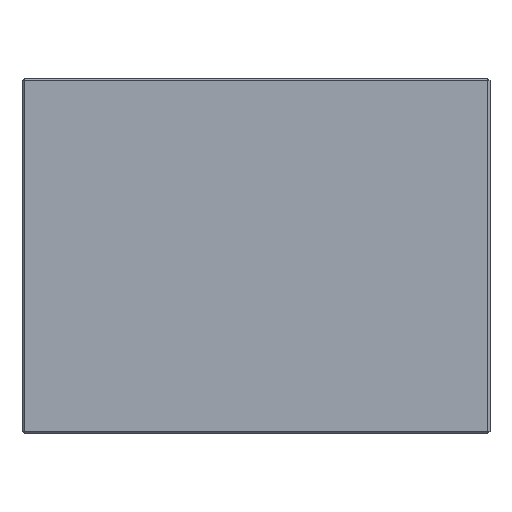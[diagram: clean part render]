
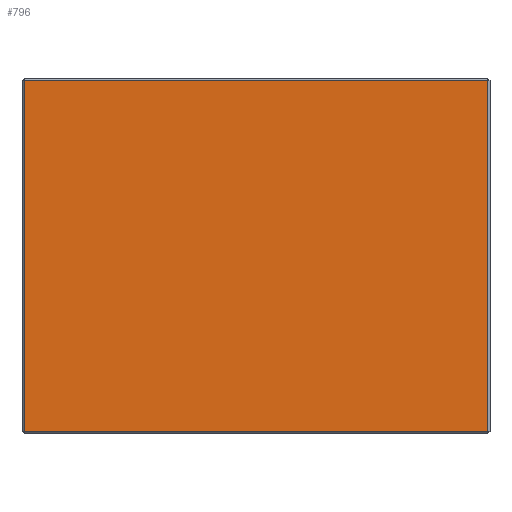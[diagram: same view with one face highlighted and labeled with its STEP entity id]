
A CAD part, left-side view. The second image highlights one B-rep face of the part: STEP entity #796.
In plain terms, the highlighted planar face has unit normal (-1, 0, 0).
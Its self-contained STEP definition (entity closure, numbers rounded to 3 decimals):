
#30 = CARTESIAN_POINT ( 'NONE',  ( -171.5, 0.25, -18. ) ) ;
#99 = VERTEX_POINT ( 'NONE', #2011 ) ;
#121 = ORIENTED_EDGE ( 'NONE', *, *, #503, .T. ) ;
#152 = EDGE_CURVE ( 'NONE', #1176, #940, #2153, .T. ) ;
#176 = EDGE_CURVE ( 'NONE', #99, #1925, #1938, .T. ) ;
#378 = CARTESIAN_POINT ( 'NONE',  ( -171.5, 0., -18. ) ) ;
#503 = EDGE_CURVE ( 'NONE', #1925, #1176, #533, .T. ) ;
#533 = LINE ( 'NONE', #1588, #663 ) ;
#609 = DIRECTION ( 'NONE',  ( 0., 1., 0. ) ) ;
#661 = ORIENTED_EDGE ( 'NONE', *, *, #176, .T. ) ;
#663 = VECTOR ( 'NONE', #2456, 1000. ) ;
#666 = LINE ( 'NONE', #2638, #1578 ) ;
#796 = ADVANCED_FACE ( 'NONE', ( #2785 ), #1044, .F. ) ;
#837 = DIRECTION ( 'NONE',  ( 0., 0., -1. ) ) ;
#940 = VERTEX_POINT ( 'NONE', #30 ) ;
#1044 = PLANE ( 'NONE',  #2557 ) ;
#1079 = EDGE_LOOP ( 'NONE', ( #661, #121, #1149, #2253 ) ) ;
#1149 = ORIENTED_EDGE ( 'NONE', *, *, #152, .T. ) ;
#1176 = VERTEX_POINT ( 'NONE', #1888 ) ;
#1416 = VECTOR ( 'NONE', #609, 1000. ) ;
#1515 = CARTESIAN_POINT ( 'NONE',  ( -171.5, 0., 18.25 ) ) ;
#1578 = VECTOR ( 'NONE', #2385, 1000. ) ;
#1588 = CARTESIAN_POINT ( 'NONE',  ( -171.5, 47.75, 18.25 ) ) ;
#1888 = CARTESIAN_POINT ( 'NONE',  ( -171.5, 47.75, -18. ) ) ;
#1925 = VERTEX_POINT ( 'NONE', #1983 ) ;
#1938 = LINE ( 'NONE', #2562, #1416 ) ;
#1939 = EDGE_CURVE ( 'NONE', #940, #99, #666, .T. ) ;
#1983 = CARTESIAN_POINT ( 'NONE',  ( -171.5, 47.75, 18. ) ) ;
#2011 = CARTESIAN_POINT ( 'NONE',  ( -171.5, 0.25, 18. ) ) ;
#2140 = DIRECTION ( 'NONE',  ( 0., -1., 0. ) ) ;
#2153 = LINE ( 'NONE', #378, #2359 ) ;
#2253 = ORIENTED_EDGE ( 'NONE', *, *, #1939, .T. ) ;
#2359 = VECTOR ( 'NONE', #2140, 1000. ) ;
#2385 = DIRECTION ( 'NONE',  ( 0., 0., 1. ) ) ;
#2396 = DIRECTION ( 'NONE',  ( 1., 0., 0. ) ) ;
#2456 = DIRECTION ( 'NONE',  ( 0., 0., -1. ) ) ;
#2557 = AXIS2_PLACEMENT_3D ( 'NONE', #1515, #2396, #837 ) ;
#2562 = CARTESIAN_POINT ( 'NONE',  ( -171.5, 48., 18. ) ) ;
#2638 = CARTESIAN_POINT ( 'NONE',  ( -171.5, 0.25, 18.25 ) ) ;
#2785 = FACE_OUTER_BOUND ( 'NONE', #1079, .T. ) ;
